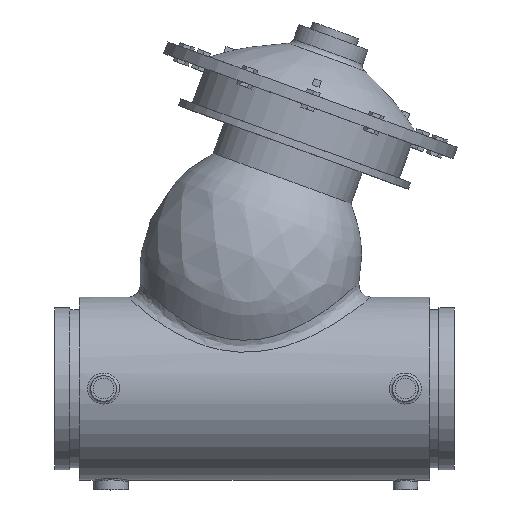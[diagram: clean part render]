
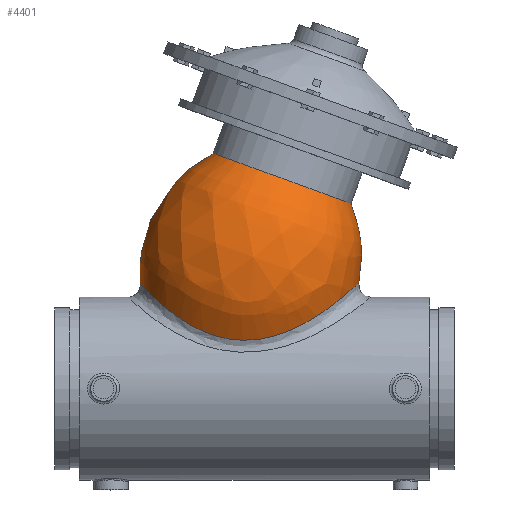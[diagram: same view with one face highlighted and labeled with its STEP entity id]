
A CAD part, top view. The second image highlights one B-rep face of the part: STEP entity #4401.
In plain terms, the highlighted free-form (B-spline) face has degree [2, 2] with [3, 9] control points.
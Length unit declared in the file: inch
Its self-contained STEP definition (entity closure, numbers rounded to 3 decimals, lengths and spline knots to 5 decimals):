
#252=(
BOUNDED_CURVE()
B_SPLINE_CURVE(2,(#6590,#6591,#6592),.UNSPECIFIED.,.F.,.F.)
B_SPLINE_CURVE_WITH_KNOTS((3,3),(-0.74886,0.62199),
 .UNSPECIFIED.)
CURVE()
GEOMETRIC_REPRESENTATION_ITEM()
RATIONAL_B_SPLINE_CURVE((1.,0.772,0.996))
REPRESENTATION_ITEM('')
);
#255=(
BOUNDED_SURFACE()
B_SPLINE_SURFACE(2,2,((#6559,#6560,#6561,#6562,#6563,#6564,#6565,#6566,
#6567),(#6568,#6569,#6570,#6571,#6572,#6573,#6574,#6575,#6576),(#6577,#6578,
#6579,#6580,#6581,#6582,#6583,#6584,#6585)),.UNSPECIFIED.,.F.,.T.,.F.)
B_SPLINE_SURFACE_WITH_KNOTS((3,3),(3,2,2,2,3),(-0.63396,0.74886),
(-3.14159,-1.5708,0.,1.5708,3.14159),
 .UNSPECIFIED.)
GEOMETRIC_REPRESENTATION_ITEM()
RATIONAL_B_SPLINE_SURFACE(((1.,0.707,1.,0.707,1.,
0.707,1.,0.707,1.),(0.77,0.545,
0.77,0.545,0.77,0.545,
0.77,0.545,0.77),(1.,0.707,
1.,0.707,1.,0.707,1.,0.707,1.)))
REPRESENTATION_ITEM('')
SURFACE()
);
#1292=FACE_OUTER_BOUND('',#1535,.T.);
#1535=EDGE_LOOP('',(#2972,#2973,#2974,#2975,#2976,#2977));
#1813=B_SPLINE_CURVE_WITH_KNOTS('',3,(#6343,#6344,#6345,#6346,#6347,#6348,
#6349,#6350,#6351,#6352,#6353,#6354,#6355,#6356,#6357,#6358,#6359,#6360,
#6361,#6362,#6363,#6364,#6365,#6366,#6367,#6368),.UNSPECIFIED.,.F.,.F.,
(4,1,1,1,1,1,1,1,1,1,1,1,1,1,1,1,1,1,1,1,1,1,1,4),(0.,2.36905,
4.7381,7.10714,9.47619,11.84524,14.21429,
16.58334,18.95238,20.53175,22.11112,23.69048,
25.26985,28.42858,31.58731,34.74604,36.3254,
37.90477,39.48414,41.0635,44.22223,47.38096,
50.53969,51.74911),.UNSPECIFIED.);
#1814=B_SPLINE_CURVE_WITH_KNOTS('',3,(#6369,#6370,#6371,#6372,#6373,#6374,
#6375,#6376,#6377,#6378,#6379),.UNSPECIFIED.,.F.,.F.,(4,1,1,1,1,1,1,1,4),
(51.74911,52.11906,53.69842,55.27779,56.85715,
61.59525,63.9643,65.74109,66.33335),
 .UNSPECIFIED.);
#1856=CIRCLE('',#4663,3.);
#1857=CIRCLE('',#4664,3.);
#1932=VERTEX_POINT('',#6340);
#1933=VERTEX_POINT('',#6342);
#1948=VERTEX_POINT('',#6586);
#1949=VERTEX_POINT('',#6587);
#2344=EDGE_CURVE('',#1932,#1933,#1813,.T.);
#2345=EDGE_CURVE('',#1933,#1932,#1814,.T.);
#2364=EDGE_CURVE('',#1948,#1949,#1856,.T.);
#2365=EDGE_CURVE('',#1949,#1948,#1857,.T.);
#2366=EDGE_CURVE('',#1949,#1933,#252,.T.);
#2972=ORIENTED_EDGE('',*,*,#2364,.F.);
#2973=ORIENTED_EDGE('',*,*,#2365,.F.);
#2974=ORIENTED_EDGE('',*,*,#2366,.T.);
#2975=ORIENTED_EDGE('',*,*,#2344,.F.);
#2976=ORIENTED_EDGE('',*,*,#2345,.F.);
#2977=ORIENTED_EDGE('',*,*,#2366,.F.);
#4401=ADVANCED_FACE('',(#1292),#255,.F.);
#4663=AXIS2_PLACEMENT_3D('',#6588,#4996,#4997);
#4664=AXIS2_PLACEMENT_3D('',#6589,#4998,#4999);
#4996=DIRECTION('center_axis',(0.342,0.94,0.));
#4997=DIRECTION('ref_axis',(0.94,-0.342,0.));
#4998=DIRECTION('center_axis',(0.342,0.94,0.));
#4999=DIRECTION('ref_axis',(0.94,-0.342,0.));
#6340=CARTESIAN_POINT('',(3.82789,3.93358,-1.69158));
#6342=CARTESIAN_POINT('',(-1.2495,2.06199,-3.43852));
#6343=CARTESIAN_POINT('Ctrl Pts',(3.82789,3.93358,-1.69158));
#6344=CARTESIAN_POINT('Ctrl Pts',(3.98005,4.06663,-1.42915));
#6345=CARTESIAN_POINT('Ctrl Pts',(4.21777,4.2863,-0.84187));
#6346=CARTESIAN_POINT('Ctrl Pts',(4.31611,4.38118,0.15571));
#6347=CARTESIAN_POINT('Ctrl Pts',(4.13306,4.20596,1.13002));
#6348=CARTESIAN_POINT('Ctrl Pts',(3.70867,3.82277,1.95726));
#6349=CARTESIAN_POINT('Ctrl Pts',(3.10234,3.33155,2.59049));
#6350=CARTESIAN_POINT('Ctrl Pts',(2.3588,2.82267,3.03412));
#6351=CARTESIAN_POINT('Ctrl Pts',(1.50676,2.37247,3.31357));
#6352=CARTESIAN_POINT('Ctrl Pts',(0.67295,2.08832,3.4437));
#6353=CARTESIAN_POINT('Ctrl Pts',(-0.09046,1.96885,
3.48814));
#6354=CARTESIAN_POINT('Ctrl Pts',(-0.7514,1.97005,3.4822));
#6355=CARTESIAN_POINT('Ctrl Pts',(-1.39867,2.07903,3.43093));
#6356=CARTESIAN_POINT('Ctrl Pts',(-2.22003,2.3536,3.29385));
#6357=CARTESIAN_POINT('Ctrl Pts',(-3.13368,2.88359,2.96758));
#6358=CARTESIAN_POINT('Ctrl Pts',(-3.99829,3.60107,2.24947));
#6359=CARTESIAN_POINT('Ctrl Pts',(-4.47149,4.07438,1.35128));
#6360=CARTESIAN_POINT('Ctrl Pts',(-4.65327,4.26508,0.50755));
#6361=CARTESIAN_POINT('Ctrl Pts',(-4.68287,4.29685,-0.15293));
#6362=CARTESIAN_POINT('Ctrl Pts',(-4.60326,4.21211,-0.80458));
#6363=CARTESIAN_POINT('Ctrl Pts',(-4.35921,3.95987,-1.61555));
#6364=CARTESIAN_POINT('Ctrl Pts',(-3.82211,3.4403,-2.44718));
#6365=CARTESIAN_POINT('Ctrl Pts',(-2.90015,2.72165,-3.08422));
#6366=CARTESIAN_POINT('Ctrl Pts',(-1.99136,2.25637,-3.34379));
#6367=CARTESIAN_POINT('Ctrl Pts',(-1.41247,2.09653,-3.42182));
#6368=CARTESIAN_POINT('Ctrl Pts',(-1.24951,2.06199,-3.43852));
#6369=CARTESIAN_POINT('Ctrl Pts',(-1.24951,2.06199,-3.43852));
#6370=CARTESIAN_POINT('Ctrl Pts',(-1.19966,2.05143,-3.44362));
#6371=CARTESIAN_POINT('Ctrl Pts',(-0.93569,2.00055,-3.46812));
#6372=CARTESIAN_POINT('Ctrl Pts',(-0.44706,1.95597,-3.49032));
#6373=CARTESIAN_POINT('Ctrl Pts',(0.21293,2.00396,-3.47624));
#6374=CARTESIAN_POINT('Ctrl Pts',(1.28944,2.24634,-3.37703));
#6375=CARTESIAN_POINT('Ctrl Pts',(2.36546,2.80533,-3.08307));
#6376=CARTESIAN_POINT('Ctrl Pts',(3.24612,3.44571,-2.45851));
#6377=CARTESIAN_POINT('Ctrl Pts',(3.62944,3.76147,-2.01205));
#6378=CARTESIAN_POINT('Ctrl Pts',(3.78986,3.90032,-1.75718));
#6379=CARTESIAN_POINT('Ctrl Pts',(3.82789,3.93358,-1.69158));
#6559=CARTESIAN_POINT('Ctrl Pts',(-1.26633,2.01575,-3.40275));
#6560=CARTESIAN_POINT('Ctrl Pts',(-4.46387,3.17956,-3.40275));
#6561=CARTESIAN_POINT('Ctrl Pts',(-4.46387,3.17956,0.));
#6562=CARTESIAN_POINT('Ctrl Pts',(-4.46387,3.17956,3.40275));
#6563=CARTESIAN_POINT('Ctrl Pts',(-1.26633,2.01575,3.40275));
#6564=CARTESIAN_POINT('Ctrl Pts',(1.93122,0.85194,3.40275));
#6565=CARTESIAN_POINT('Ctrl Pts',(1.93122,0.85194,0.));
#6566=CARTESIAN_POINT('Ctrl Pts',(1.93122,0.85194,-3.40275));
#6567=CARTESIAN_POINT('Ctrl Pts',(-1.26633,2.01575,-3.40275));
#6568=CARTESIAN_POINT('Ctrl Pts',(-0.01186,5.46238,-6.09931));
#6569=CARTESIAN_POINT('Ctrl Pts',(-5.74333,7.54847,-6.09931));
#6570=CARTESIAN_POINT('Ctrl Pts',(-5.74333,7.54847,0.));
#6571=CARTESIAN_POINT('Ctrl Pts',(-5.74333,7.54847,6.09931));
#6572=CARTESIAN_POINT('Ctrl Pts',(-0.01186,5.46238,
6.09931));
#6573=CARTESIAN_POINT('Ctrl Pts',(5.71962,3.3763,6.09931));
#6574=CARTESIAN_POINT('Ctrl Pts',(5.71962,3.3763,0.));
#6575=CARTESIAN_POINT('Ctrl Pts',(5.71962,3.3763,-6.09931));
#6576=CARTESIAN_POINT('Ctrl Pts',(-0.01186,5.46238,-6.09931));
#6577=CARTESIAN_POINT('Ctrl Pts',(1.1286,8.59575,-3.));
#6578=CARTESIAN_POINT('Ctrl Pts',(-1.69048,9.62181,-3.));
#6579=CARTESIAN_POINT('Ctrl Pts',(-1.69048,9.62181,0.));
#6580=CARTESIAN_POINT('Ctrl Pts',(-1.69048,9.62181,3.));
#6581=CARTESIAN_POINT('Ctrl Pts',(1.1286,8.59575,3.));
#6582=CARTESIAN_POINT('Ctrl Pts',(3.94768,7.56969,3.));
#6583=CARTESIAN_POINT('Ctrl Pts',(3.94768,7.56969,0.));
#6584=CARTESIAN_POINT('Ctrl Pts',(3.94768,7.56969,-3.));
#6585=CARTESIAN_POINT('Ctrl Pts',(1.1286,8.59575,-3.));
#6586=CARTESIAN_POINT('',(-1.69048,9.62181,0.));
#6587=CARTESIAN_POINT('',(1.1286,8.59575,-3.));
#6588=CARTESIAN_POINT('Origin',(1.1286,8.59575,0.));
#6589=CARTESIAN_POINT('Origin',(1.1286,8.59575,0.));
#6590=CARTESIAN_POINT('Ctrl Pts',(1.1286,8.59575,-3.));
#6591=CARTESIAN_POINT('Ctrl Pts',(0.00093,5.4975,
-6.06457));
#6592=CARTESIAN_POINT('Ctrl Pts',(-1.24949,2.062,-3.43852));
